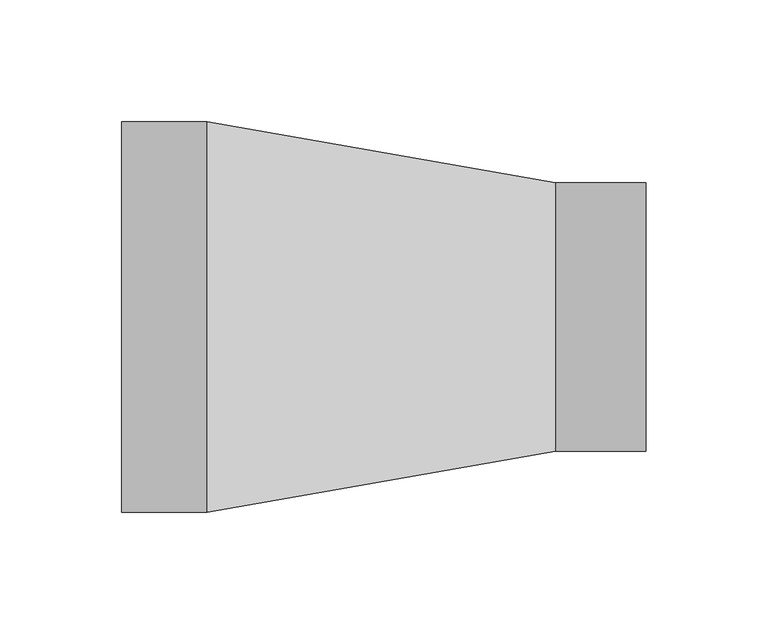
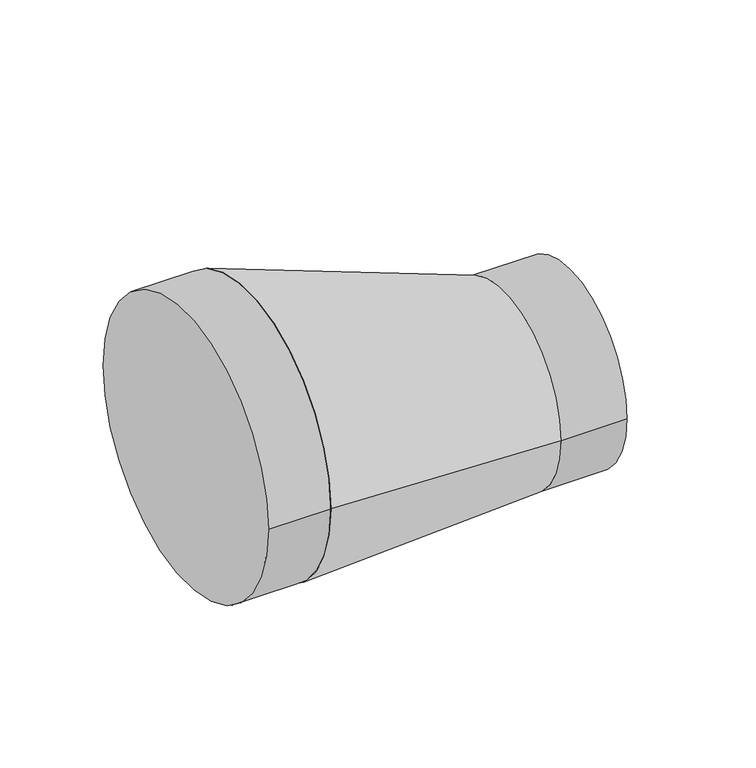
"""IFC4 building model written with IfcOpenShell, lengths in millimetres: pipe fitting geometry, Pipelife - VRD - Redukcja ekscentryczna długa : Pipelife - VRD - Redukcja ekscentryczna długa."""

from ifc_helpers import new_model, si_unit, point, frame, frame_2d, origin, origin_2d, place, context, project, spatial, circle_curve, trimmed, segment, composite_curve, outline, extrude, source, transform, mapped, element, save
from ifc_brep_helpers import plane_surface, spline_surface, advanced_brep


def pipe_fitting_55f24a21(model_context):
    return source(origin(), model_context, "Body", "SolidModel", [
        advanced_brep(
        [(70.5, -55.0, -25.0), (70.5, 55.0, -25.0), (-72.5, -80.0, 0.0), (-72.5, 80.0, 0.0)],
        [
            (0, 1, circle_curve(frame((70.5, 0.0, -25.0), z_axis=(1.0, 0.0, 0.0), x_axis=(0.0, 1.0, 0.0)), 55.0)),
            (1, 0, circle_curve(frame((70.5, 0.0, -25.0), z_axis=(1.0, 0.0, 0.0), x_axis=(0.0, 1.0, 0.0)), 55.0)),
            (2, 3, circle_curve(frame((-72.5, 0.0, 0.0), z_axis=(-1.0, 0.0, 0.0), x_axis=(0.0, 1.0, 0.0)), 80.0)),
            (3, 2, circle_curve(frame((-72.5, 0.0, 0.0), z_axis=(-1.0, 0.0, 0.0), x_axis=(0.0, 1.0, 0.0)), 80.0)),
            (3, 1),
            (0, 2),
        ],
        [
            plane_surface(frame((70.5, 0.0, -25.0), z_axis=(1.0, 0.0, 0.0), x_axis=(0.0, 0.0, -1.0))),
            plane_surface(frame((-72.5, 0.0, 0.0), z_axis=(-1.0, 0.0, 0.0), x_axis=(0.0, 0.0, -1.0))),
            spline_surface(2, 1, [[(-72.5, -80.0, 0.0), (70.5, -55.0, -25.0)], [(-72.5, -80.0, -80.0), (70.5, -55.0, -80.0)], [(-72.5, 0.0, -80.0), (70.5, 0.0, -80.0)], [(-72.5, 80.0, -80.0), (70.5, 55.0, -80.0)], [(-72.5, 80.0, 0.0), (70.5, 55.0, -25.0)]], [3, 2, 3], [2, 2], [0.0, 1.0, 2.0], [0.0, 1.0], weights=[[1.0, 1.0], [0.7071067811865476, 0.7071067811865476], [1.0, 1.0], [0.7071067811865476, 0.7071067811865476], [1.0, 1.0]]),
            spline_surface(2, 1, [[(-72.5, 80.0, 0.0), (70.5, 55.0, -25.0)], [(-72.5, 80.0, 80.0), (70.5, 55.0, 30.0)], [(-72.5, 0.0, 80.0), (70.5, 0.0, 30.0)], [(-72.5, -80.0, 80.0), (70.5, -55.0, 30.0)], [(-72.5, -80.0, 0.0), (70.5, -55.0, -25.0)]], [3, 2, 3], [2, 2], [0.0, 1.0, 2.0], [0.0, 1.0], weights=[[1.0, 1.0], [0.7071067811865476, 0.7071067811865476], [1.0, 1.0], [0.7071067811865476, 0.7071067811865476], [1.0, 1.0]]),
        ],
        [
            (0, [[1, 2]]),
            (1, [[3, 4]]),
            (2, [[-4, 5, -1, 6]]),
            (3, [[-3, -6, -2, -5]]),
        ],
    ),
        extrude(outline(composite_curve([segment(trimmed(circle_curve(frame_2d((0.0, -25.0)), 55.0), [point((-55.0, -25.0))], [point((55.0, -25.0))], False, "CARTESIAN"), True, "CONTINUOUS"), segment(trimmed(circle_curve(frame_2d((0.0, -25.0)), 55.0), [point((55.0, -25.0))], [point((-55.0, -25.0))], False, "CARTESIAN"), True, "CONTINUOUS")], self_intersect=False)), frame((70.5, 0.0, 0.0), z_axis=(1.0, 0.0, 0.0), x_axis=(0.0, 1.0, 0.0)), (0.0, 0.0, 1.0), 37.0),
        extrude(outline(composite_curve([segment(trimmed(circle_curve(origin_2d(), 80.0), [point((-80.0, 0.0))], [point((80.0, 0.0))], False, "CARTESIAN"), True, "CONTINUOUS"), segment(trimmed(circle_curve(origin_2d(), 80.0), [point((80.0, 0.0))], [point((-80.0, 0.0))], False, "CARTESIAN"), True, "CONTINUOUS")], self_intersect=False)), frame((-107.5, 0.0, 0.0), z_axis=(1.0, 0.0, 0.0), x_axis=(0.0, 1.0, 0.0)), (0.0, 0.0, 1.0), 35.0),
    ])


if __name__ == "__main__":
    model = new_model("IFC4")
    model_context = context("Model", 3, world=origin())
    ifc_project = project(units=[si_unit("LENGTHUNIT", "METRE", prefix="MILLI")], contexts=[model_context])
    site = spatial("IfcSite", under=ifc_project)
    building = spatial("IfcBuilding", under=site)
    placement = place(None, origin())
    pipe_fitting_shape = pipe_fitting_55f24a21(model_context)
    element("IfcPipeFitting", 1, ObjectType="Pipelife - VRD - Redukcja ekscentryczna długa : Pipelife - VRD - Redukcja ekscentryczna długa", at=placement, inside=building, context=model_context, shape_type="MappedRepresentation", body=[
        mapped(pipe_fitting_shape, transform((0.0, 0.0, 0.0), x_axis=(1.0, 0.0, 0.0), y_axis=(0.0, 1.0, 0.0), z_axis=(0.0, 0.0, 1.0))),
    ])
    save(model, "model.ifc")
